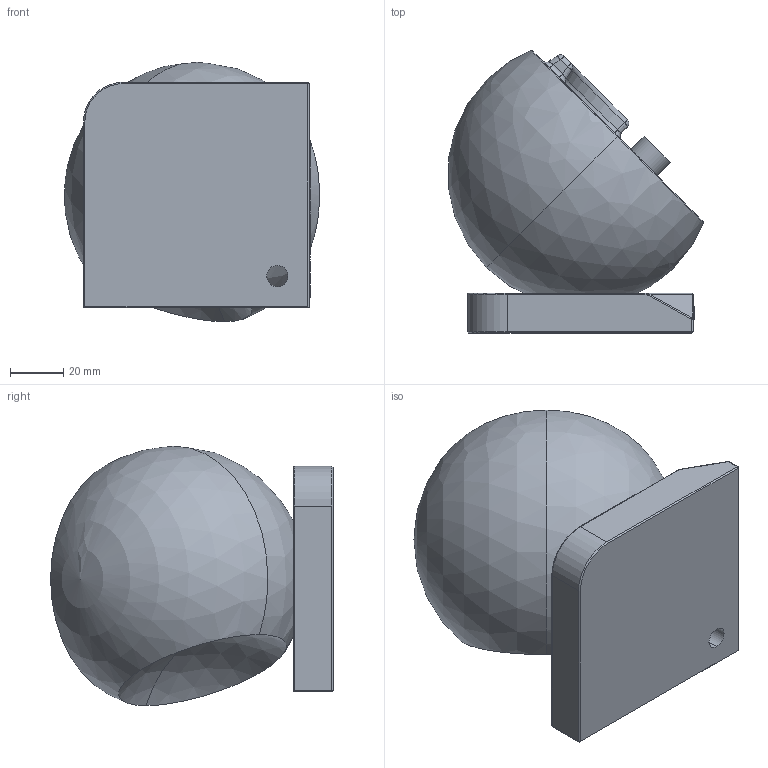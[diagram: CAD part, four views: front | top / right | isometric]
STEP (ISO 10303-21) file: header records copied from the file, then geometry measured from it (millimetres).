
FILE_DESCRIPTION (( 'STEP AP214' ), '1' );
FILE_NAME ('Ansichtsmuster_V01.STEP', '2026-02-05T07:12:44', ( '' ), ( '' ), 'SwSTEP 2.0', 'SolidWorks 2023', '' );
FILE_SCHEMA (( 'AUTOMOTIVE_DESIGN' ));
Length unit declared in the file: millimetre
Products named in the file (3): 117967_01; 117970_01; Ansichtsmuster_V01
Assembly tree (2 placements, depth 2):
  Ansichtsmuster_V01
    117970_01
    117967_01
Bounding box: 96.05 x 106.4 x 97.69 mm (x, y, z)
Volume: 447270.4 mm3; surface area: 51912.4 mm2
Topology: 2 solids, 2 shells, 380 faces, 921 edges, 551 vertices
Faces by surface type: plane 163, bspline 70, cylinder 62, sphere 34, torus 34, cone 17
Entity records: 13769 total; most frequent: CARTESIAN_POINT 5299, ORIENTED_EDGE 1798, DIRECTION 1638, EDGE_CURVE 899, AXIS2_PLACEMENT_3D 564, VERTEX_POINT 548, VECTOR 510, LINE 510
